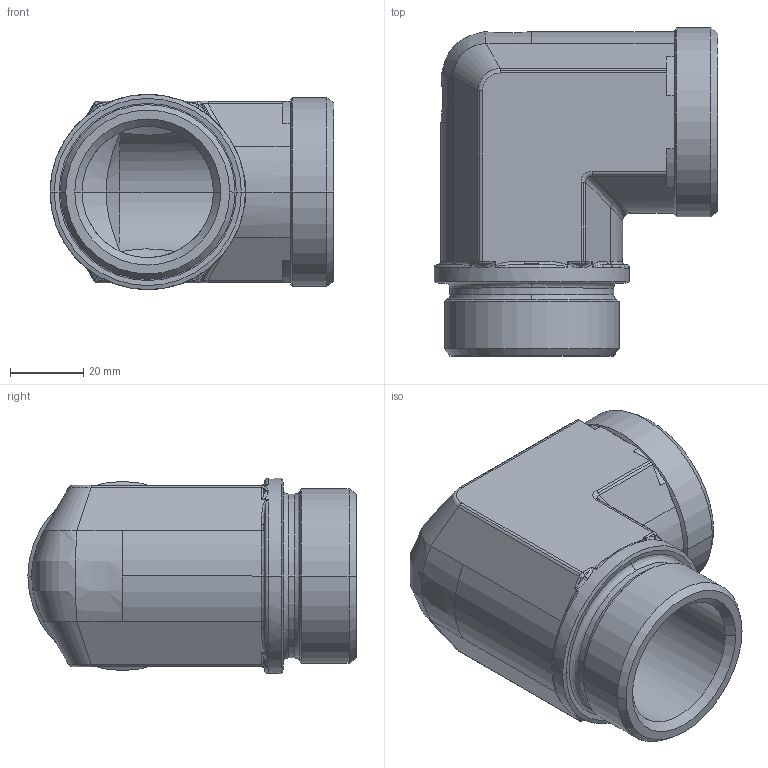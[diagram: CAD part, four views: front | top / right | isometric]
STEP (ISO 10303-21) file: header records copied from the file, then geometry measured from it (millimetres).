
FILE_DESCRIPTION((''),'2;1');
FILE_NAME('102413.stp','2007-10-31T10:31:55',(''),(''),'AutoCAD STEP 2000i','AutoCAD 2000i',', , ');
FILE_SCHEMA(('CONFIG_CONTROL_DESIGN'));
Length unit declared in the file: millimetre
Products named in the file (2): 102413.0; 3090#0
Assembly tree (1 placements, depth 2):
  102413.0
    3090#0
Bounding box: 77.75 x 89.91 x 53.5 mm (x, y, z)
Volume: 110955.4 mm3; surface area: 33816.5 mm2
Topology: 1 solids, 1 shells, 181 faces, 443 edges, 261 vertices
Faces by surface type: cylinder 78, bspline 44, plane 29, cone 24, torus 6
Entity records: 9516 total; most frequent: CARTESIAN_POINT 5334, ORIENTED_EDGE 878, DIRECTION 845, EDGE_CURVE 439, AXIS2_PLACEMENT_3D 350, VERTEX_POINT 261, CIRCLE 193, EDGE_LOOP 184
